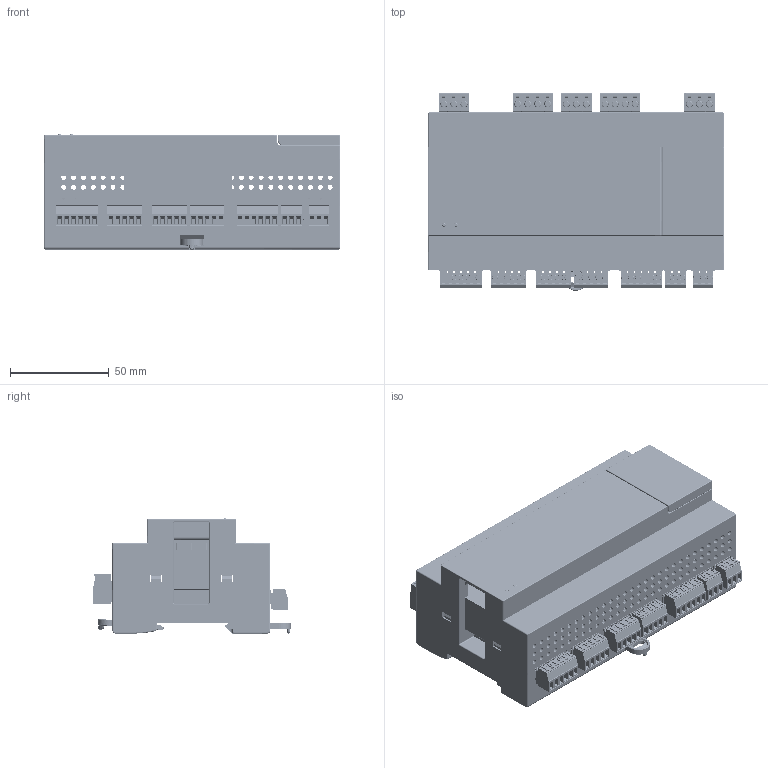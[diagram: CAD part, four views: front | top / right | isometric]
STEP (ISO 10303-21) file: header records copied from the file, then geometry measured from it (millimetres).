
FILE_DESCRIPTION (( 'STEP AP214' ), '1' );
FILE_NAME ('SMRE-IO酗遴-蚾饜极-V1.0.STEP', '2024-06-20T03:00:59', ( '' ), ( '' ), 'SwSTEP 2.0', 'SolidWorks 2018', '' );
FILE_SCHEMA (( 'AUTOMOTIVE_DESIGN' ));
Length unit declared in the file: millimetre
Products named in the file (21): COMPOUND.step-12_1.stp.SLDPRT.stp.STEP-1; TP-508-4P-蚾饜极; SMRE-IO酗遴-XG-V1.0; 28IO-JCJ; TP-508-3P-蚾饜极; SMRE-IO酗遴-蚾饜极-V1.0; HA03-01A+PA03-01A?3-5-5P; SMRE-IO酗遴-SG-V1.0; DDC-7P絳嫖翐-G2P; 縐諶2; 縐諶1; SMRE-IO酗遴-PCB2-V1.0; HA05-00C+PA05-00A-3P-C; HA05-00C+PA05-00A-4P-C; JL2EDGRC-5.08-3P-T; SMRE-IO酗遴-PCB1-V1.0; SMRE-IO酗遴-PCB蚾饜极-V1.0; HA03-01A+PA03-01A?3-5-6P; JL2EDGRC-5.08-4P-T; HA03-01A+PA03-01A?3-5-3P; SMRE-SR1-FG-V1.0
Assembly tree (27 placements, depth 4):
  SMRE-IO酗遴-蚾饜极-V1.0
    SMRE-IO酗遴-XG-V1.0
    SMRE-IO酗遴-SG-V1.0
    SMRE-SR1-FG-V1.0
    DDC-7P絳嫖翐-G2P
    SMRE-IO酗遴-PCB蚾饜极-V1.0
      SMRE-IO酗遴-PCB1-V1.0
      SMRE-IO酗遴-PCB2-V1.0
      HA03-01A+PA03-01A?3-5-6P  x2
      HA03-01A+PA03-01A?3-5-5P  x3
      HA03-01A+PA03-01A?3-5-3P  x2
      28IO-JCJ
      COMPOUND.step-12_1.stp.SLDPRT.stp.STEP-1
      TP-508-3P-蚾饜极  x3
        JL2EDGRC-5.08-3P-T
        HA05-00C+PA05-00A-3P-C
      TP-508-4P-蚾饜极  x2
        JL2EDGRC-5.08-4P-T
        HA05-00C+PA05-00A-4P-C
    縐諶1
    縐諶2
Bounding box: 150.03 x 100.1 x 58.3 mm (x, y, z)
Volume: 166648.2 mm3; surface area: 218347.7 mm2
Topology: 47 solids, 378 shells, 19049 faces, 53269 edges, 35057 vertices
Faces by surface type: plane 11728, cylinder 5278, bspline 1047, torus 471, cone 385, sphere 140
Entity records: 370164 total; most frequent: CARTESIAN_POINT 137924, ORIENTED_EDGE 51830, DIRECTION 42845, EDGE_CURVE 25915, VERTEX_POINT 17010, VECTOR 15619, LINE 15619, AXIS2_PLACEMENT_3D 13613
